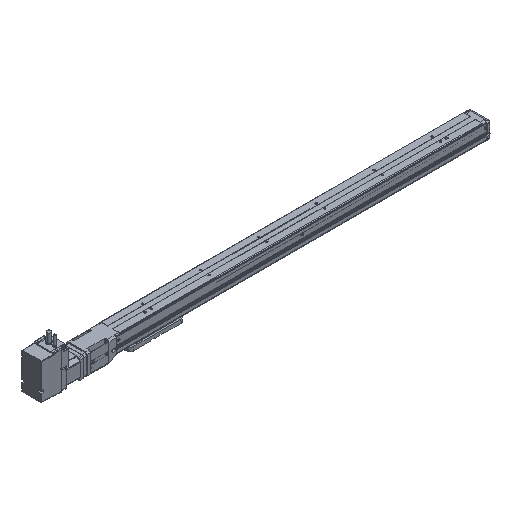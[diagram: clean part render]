
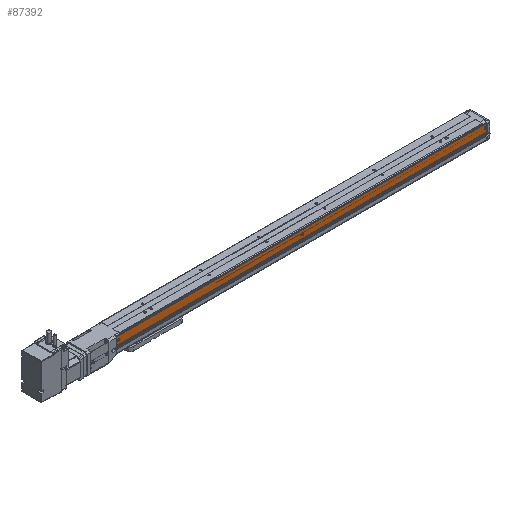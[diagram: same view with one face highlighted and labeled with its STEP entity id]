
A CAD part, isometric view. The second image highlights one B-rep face of the part: STEP entity #87392.
In plain terms, the highlighted planar face has unit normal (0, -1, 0) as drawn and (0, 0, -1) by its records, which use the part's own axes.
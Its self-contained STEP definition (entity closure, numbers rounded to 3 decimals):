
#68400 = PLANE('',#68401);
#68401 = AXIS2_PLACEMENT_3D('',#68402,#68403,#68404);
#68402 = CARTESIAN_POINT('',(-776.5,1.25,21.3));
#68403 = DIRECTION('',(1.,0.,0.));
#68404 = DIRECTION('',(0.,0.,-1.));
#68828 = PLANE('',#68829);
#68829 = AXIS2_PLACEMENT_3D('',#68830,#68831,#68832);
#68830 = CARTESIAN_POINT('',(-9.5,1.25,21.3));
#68831 = DIRECTION('',(1.,0.,0.));
#68832 = DIRECTION('',(0.,0.,-1.));
#86585 = VERTEX_POINT('',#86586);
#86586 = CARTESIAN_POINT('',(-776.5,-2.65,-21.5));
#86603 = CYLINDRICAL_SURFACE('',#86604,0.2);
#86604 = AXIS2_PLACEMENT_3D('',#86605,#86606,#86607);
#86605 = CARTESIAN_POINT('',(-776.5,-2.65,-21.3));
#86606 = DIRECTION('',(1.,0.,0.));
#86607 = DIRECTION('',(0.,0.,-1.));
#86615 = EDGE_CURVE('',#86616,#86585,#86618,.T.);
#86616 = VERTEX_POINT('',#86617);
#86617 = CARTESIAN_POINT('',(-776.5,-20.734,-21.5));
#86618 = SURFACE_CURVE('',#86619,(#86623,#86630),.PCURVE_S1.);
#86619 = LINE('',#86620,#86621);
#86620 = CARTESIAN_POINT('',(-776.5,-20.734,-21.5));
#86621 = VECTOR('',#86622,1.);
#86622 = DIRECTION('',(0.,1.,0.));
#86623 = PCURVE('',#68400,#86624);
#86624 = DEFINITIONAL_REPRESENTATION('',(#86625),#86629);
#86625 = LINE('',#86626,#86627);
#86626 = CARTESIAN_POINT('',(42.8,-21.984));
#86627 = VECTOR('',#86628,1.);
#86628 = DIRECTION('',(0.,1.));
#86629 = ( GEOMETRIC_REPRESENTATION_CONTEXT(2) 
PARAMETRIC_REPRESENTATION_CONTEXT() REPRESENTATION_CONTEXT('2D SPACE',''
  ) );
#86630 = PCURVE('',#86631,#86636);
#86631 = PLANE('',#86632);
#86632 = AXIS2_PLACEMENT_3D('',#86633,#86634,#86635);
#86633 = CARTESIAN_POINT('',(-776.5,-20.734,-21.5));
#86634 = DIRECTION('',(0.,0.,-1.));
#86635 = DIRECTION('',(-1.,0.,0.));
#86636 = DEFINITIONAL_REPRESENTATION('',(#86637),#86641);
#86637 = LINE('',#86638,#86639);
#86638 = CARTESIAN_POINT('',(0.,0.));
#86639 = VECTOR('',#86640,1.);
#86640 = DIRECTION('',(0.,1.));
#86641 = ( GEOMETRIC_REPRESENTATION_CONTEXT(2) 
PARAMETRIC_REPRESENTATION_CONTEXT() REPRESENTATION_CONTEXT('2D SPACE',''
  ) );
#86660 = CYLINDRICAL_SURFACE('',#86661,1.);
#86661 = AXIS2_PLACEMENT_3D('',#86662,#86663,#86664);
#86662 = CARTESIAN_POINT('',(-776.5,-20.734,-20.5));
#86663 = DIRECTION('',(1.,0.,0.));
#86664 = DIRECTION('',(0.,0.,-1.));
#87073 = VERTEX_POINT('',#87074);
#87074 = CARTESIAN_POINT('',(-9.5,-20.734,-21.5));
#87096 = EDGE_CURVE('',#87073,#87097,#87099,.T.);
#87097 = VERTEX_POINT('',#87098);
#87098 = CARTESIAN_POINT('',(-9.5,-2.65,-21.5));
#87099 = SURFACE_CURVE('',#87100,(#87104,#87111),.PCURVE_S1.);
#87100 = LINE('',#87101,#87102);
#87101 = CARTESIAN_POINT('',(-9.5,-20.734,-21.5));
#87102 = VECTOR('',#87103,1.);
#87103 = DIRECTION('',(0.,1.,0.));
#87104 = PCURVE('',#68828,#87105);
#87105 = DEFINITIONAL_REPRESENTATION('',(#87106),#87110);
#87106 = LINE('',#87107,#87108);
#87107 = CARTESIAN_POINT('',(42.8,-21.984));
#87108 = VECTOR('',#87109,1.);
#87109 = DIRECTION('',(0.,1.));
#87110 = ( GEOMETRIC_REPRESENTATION_CONTEXT(2) 
PARAMETRIC_REPRESENTATION_CONTEXT() REPRESENTATION_CONTEXT('2D SPACE',''
  ) );
#87111 = PCURVE('',#86631,#87112);
#87112 = DEFINITIONAL_REPRESENTATION('',(#87113),#87117);
#87113 = LINE('',#87114,#87115);
#87114 = CARTESIAN_POINT('',(-767.,0.));
#87115 = VECTOR('',#87116,1.);
#87116 = DIRECTION('',(0.,1.));
#87117 = ( GEOMETRIC_REPRESENTATION_CONTEXT(2) 
PARAMETRIC_REPRESENTATION_CONTEXT() REPRESENTATION_CONTEXT('2D SPACE',''
  ) );
#87372 = EDGE_CURVE('',#86616,#87073,#87373,.T.);
#87373 = SURFACE_CURVE('',#87374,(#87378,#87385),.PCURVE_S1.);
#87374 = LINE('',#87375,#87376);
#87375 = CARTESIAN_POINT('',(-776.5,-20.734,-21.5));
#87376 = VECTOR('',#87377,1.);
#87377 = DIRECTION('',(1.,0.,0.));
#87378 = PCURVE('',#86660,#87379);
#87379 = DEFINITIONAL_REPRESENTATION('',(#87380),#87384);
#87380 = LINE('',#87381,#87382);
#87381 = CARTESIAN_POINT('',(6.283,0.));
#87382 = VECTOR('',#87383,1.);
#87383 = DIRECTION('',(0.,1.));
#87384 = ( GEOMETRIC_REPRESENTATION_CONTEXT(2) 
PARAMETRIC_REPRESENTATION_CONTEXT() REPRESENTATION_CONTEXT('2D SPACE',''
  ) );
#87385 = PCURVE('',#86631,#87386);
#87386 = DEFINITIONAL_REPRESENTATION('',(#87387),#87391);
#87387 = LINE('',#87388,#87389);
#87388 = CARTESIAN_POINT('',(0.,0.));
#87389 = VECTOR('',#87390,1.);
#87390 = DIRECTION('',(-1.,0.));
#87391 = ( GEOMETRIC_REPRESENTATION_CONTEXT(2) 
PARAMETRIC_REPRESENTATION_CONTEXT() REPRESENTATION_CONTEXT('2D SPACE',''
  ) );
#87392 = ADVANCED_FACE('',(#87393,#87424,#87459,#87494),#86631,.T.);
#87393 = FACE_BOUND('',#87394,.T.);
#87394 = EDGE_LOOP('',(#87395));
#87395 = ORIENTED_EDGE('',*,*,#87396,.F.);
#87396 = EDGE_CURVE('',#87397,#87397,#87399,.T.);
#87397 = VERTEX_POINT('',#87398);
#87398 = CARTESIAN_POINT('',(-395.25,-13.5,-21.5));
#87399 = SURFACE_CURVE('',#87400,(#87405,#87412),.PCURVE_S1.);
#87400 = CIRCLE('',#87401,2.25);
#87401 = AXIS2_PLACEMENT_3D('',#87402,#87403,#87404);
#87402 = CARTESIAN_POINT('',(-393.,-13.5,-21.5));
#87403 = DIRECTION('',(0.,0.,-1.));
#87404 = DIRECTION('',(-1.,0.,0.));
#87405 = PCURVE('',#86631,#87406);
#87406 = DEFINITIONAL_REPRESENTATION('',(#87407),#87411);
#87407 = CIRCLE('',#87408,2.25);
#87408 = AXIS2_PLACEMENT_2D('',#87409,#87410);
#87409 = CARTESIAN_POINT('',(-383.5,7.234));
#87410 = DIRECTION('',(1.,0.));
#87411 = ( GEOMETRIC_REPRESENTATION_CONTEXT(2) 
PARAMETRIC_REPRESENTATION_CONTEXT() REPRESENTATION_CONTEXT('2D SPACE',''
  ) );
#87412 = PCURVE('',#87413,#87418);
#87413 = CONICAL_SURFACE('',#87414,2.25,0.087);
#87414 = AXIS2_PLACEMENT_3D('',#87415,#87416,#87417);
#87415 = CARTESIAN_POINT('',(-393.,-13.5,-21.5));
#87416 = DIRECTION('',(0.,0.,1.));
#87417 = DIRECTION('',(1.,0.,-0.));
#87418 = DEFINITIONAL_REPRESENTATION('',(#87419),#87423);
#87419 = LINE('',#87420,#87421);
#87420 = CARTESIAN_POINT('',(9.425,0.));
#87421 = VECTOR('',#87422,1.);
#87422 = DIRECTION('',(-1.,0.));
#87423 = ( GEOMETRIC_REPRESENTATION_CONTEXT(2) 
PARAMETRIC_REPRESENTATION_CONTEXT() REPRESENTATION_CONTEXT('2D SPACE',''
  ) );
#87424 = FACE_BOUND('',#87425,.T.);
#87425 = EDGE_LOOP('',(#87426));
#87426 = ORIENTED_EDGE('',*,*,#87427,.T.);
#87427 = EDGE_CURVE('',#87428,#87428,#87430,.T.);
#87428 = VERTEX_POINT('',#87429);
#87429 = CARTESIAN_POINT('',(-770.71,-14.5,-21.5));
#87430 = SURFACE_CURVE('',#87431,(#87436,#87447),.PCURVE_S1.);
#87431 = CIRCLE('',#87432,2.29);
#87432 = AXIS2_PLACEMENT_3D('',#87433,#87434,#87435);
#87433 = CARTESIAN_POINT('',(-773.,-14.5,-21.5));
#87434 = DIRECTION('',(0.,0.,1.));
#87435 = DIRECTION('',(1.,0.,-0.));
#87436 = PCURVE('',#86631,#87437);
#87437 = DEFINITIONAL_REPRESENTATION('',(#87438),#87446);
#87438 = ( BOUNDED_CURVE() B_SPLINE_CURVE(2,(#87439,#87440,#87441,#87442
    ,#87443,#87444,#87445),.UNSPECIFIED.,.T.,.F.) 
B_SPLINE_CURVE_WITH_KNOTS((1,2,2,2,2,1),(-2.094,0.,
    2.094,4.189,6.283,8.378),
.UNSPECIFIED.) CURVE() GEOMETRIC_REPRESENTATION_ITEM() 
RATIONAL_B_SPLINE_CURVE((1.,0.5,1.,0.5,1.,0.5,1.)) REPRESENTATION_ITEM(
  '') );
#87439 = CARTESIAN_POINT('',(-5.79,6.234));
#87440 = CARTESIAN_POINT('',(-5.79,10.201));
#87441 = CARTESIAN_POINT('',(-2.355,8.218));
#87442 = CARTESIAN_POINT('',(1.08,6.234));
#87443 = CARTESIAN_POINT('',(-2.355,4.251));
#87444 = CARTESIAN_POINT('',(-5.79,2.268));
#87445 = CARTESIAN_POINT('',(-5.79,6.234));
#87446 = ( GEOMETRIC_REPRESENTATION_CONTEXT(2) 
PARAMETRIC_REPRESENTATION_CONTEXT() REPRESENTATION_CONTEXT('2D SPACE',''
  ) );
#87447 = PCURVE('',#87448,#87453);
#87448 = CONICAL_SURFACE('',#87449,2.221,0.087);
#87449 = AXIS2_PLACEMENT_3D('',#87450,#87451,#87452);
#87450 = CARTESIAN_POINT('',(-773.,-14.5,-22.289));
#87451 = DIRECTION('',(0.,0.,1.));
#87452 = DIRECTION('',(1.,0.,-0.));
#87453 = DEFINITIONAL_REPRESENTATION('',(#87454),#87458);
#87454 = LINE('',#87455,#87456);
#87455 = CARTESIAN_POINT('',(0.,0.789));
#87456 = VECTOR('',#87457,1.);
#87457 = DIRECTION('',(1.,0.));
#87458 = ( GEOMETRIC_REPRESENTATION_CONTEXT(2) 
PARAMETRIC_REPRESENTATION_CONTEXT() REPRESENTATION_CONTEXT('2D SPACE',''
  ) );
#87459 = FACE_BOUND('',#87460,.T.);
#87460 = EDGE_LOOP('',(#87461));
#87461 = ORIENTED_EDGE('',*,*,#87462,.T.);
#87462 = EDGE_CURVE('',#87463,#87463,#87465,.T.);
#87463 = VERTEX_POINT('',#87464);
#87464 = CARTESIAN_POINT('',(-10.71,-14.5,-21.5));
#87465 = SURFACE_CURVE('',#87466,(#87471,#87482),.PCURVE_S1.);
#87466 = CIRCLE('',#87467,2.29);
#87467 = AXIS2_PLACEMENT_3D('',#87468,#87469,#87470);
#87468 = CARTESIAN_POINT('',(-13.,-14.5,-21.5));
#87469 = DIRECTION('',(0.,0.,1.));
#87470 = DIRECTION('',(1.,0.,-0.));
#87471 = PCURVE('',#86631,#87472);
#87472 = DEFINITIONAL_REPRESENTATION('',(#87473),#87481);
#87473 = ( BOUNDED_CURVE() B_SPLINE_CURVE(2,(#87474,#87475,#87476,#87477
    ,#87478,#87479,#87480),.UNSPECIFIED.,.T.,.F.) 
B_SPLINE_CURVE_WITH_KNOTS((1,2,2,2,2,1),(-2.094,0.,
    2.094,4.189,6.283,8.378),
.UNSPECIFIED.) CURVE() GEOMETRIC_REPRESENTATION_ITEM() 
RATIONAL_B_SPLINE_CURVE((1.,0.5,1.,0.5,1.,0.5,1.)) REPRESENTATION_ITEM(
  '') );
#87474 = CARTESIAN_POINT('',(-765.79,6.234));
#87475 = CARTESIAN_POINT('',(-765.79,10.201));
#87476 = CARTESIAN_POINT('',(-762.355,8.218));
#87477 = CARTESIAN_POINT('',(-758.92,6.234));
#87478 = CARTESIAN_POINT('',(-762.355,4.251));
#87479 = CARTESIAN_POINT('',(-765.79,2.268));
#87480 = CARTESIAN_POINT('',(-765.79,6.234));
#87481 = ( GEOMETRIC_REPRESENTATION_CONTEXT(2) 
PARAMETRIC_REPRESENTATION_CONTEXT() REPRESENTATION_CONTEXT('2D SPACE',''
  ) );
#87482 = PCURVE('',#87483,#87488);
#87483 = CONICAL_SURFACE('',#87484,2.221,0.087);
#87484 = AXIS2_PLACEMENT_3D('',#87485,#87486,#87487);
#87485 = CARTESIAN_POINT('',(-13.,-14.5,-22.289));
#87486 = DIRECTION('',(0.,0.,1.));
#87487 = DIRECTION('',(1.,0.,-0.));
#87488 = DEFINITIONAL_REPRESENTATION('',(#87489),#87493);
#87489 = LINE('',#87490,#87491);
#87490 = CARTESIAN_POINT('',(0.,0.789));
#87491 = VECTOR('',#87492,1.);
#87492 = DIRECTION('',(1.,0.));
#87493 = ( GEOMETRIC_REPRESENTATION_CONTEXT(2) 
PARAMETRIC_REPRESENTATION_CONTEXT() REPRESENTATION_CONTEXT('2D SPACE',''
  ) );
#87494 = FACE_BOUND('',#87495,.T.);
#87495 = EDGE_LOOP('',(#87496,#87497,#87498,#87499));
#87496 = ORIENTED_EDGE('',*,*,#87096,.F.);
#87497 = ORIENTED_EDGE('',*,*,#87372,.F.);
#87498 = ORIENTED_EDGE('',*,*,#86615,.T.);
#87499 = ORIENTED_EDGE('',*,*,#87500,.T.);
#87500 = EDGE_CURVE('',#86585,#87097,#87501,.T.);
#87501 = SURFACE_CURVE('',#87502,(#87506,#87513),.PCURVE_S1.);
#87502 = LINE('',#87503,#87504);
#87503 = CARTESIAN_POINT('',(-776.5,-2.65,-21.5));
#87504 = VECTOR('',#87505,1.);
#87505 = DIRECTION('',(1.,0.,0.));
#87506 = PCURVE('',#86631,#87507);
#87507 = DEFINITIONAL_REPRESENTATION('',(#87508),#87512);
#87508 = LINE('',#87509,#87510);
#87509 = CARTESIAN_POINT('',(0.,18.084));
#87510 = VECTOR('',#87511,1.);
#87511 = DIRECTION('',(-1.,0.));
#87512 = ( GEOMETRIC_REPRESENTATION_CONTEXT(2) 
PARAMETRIC_REPRESENTATION_CONTEXT() REPRESENTATION_CONTEXT('2D SPACE',''
  ) );
#87513 = PCURVE('',#86603,#87514);
#87514 = DEFINITIONAL_REPRESENTATION('',(#87515),#87519);
#87515 = LINE('',#87516,#87517);
#87516 = CARTESIAN_POINT('',(0.,0.));
#87517 = VECTOR('',#87518,1.);
#87518 = DIRECTION('',(0.,1.));
#87519 = ( GEOMETRIC_REPRESENTATION_CONTEXT(2) 
PARAMETRIC_REPRESENTATION_CONTEXT() REPRESENTATION_CONTEXT('2D SPACE',''
  ) );
